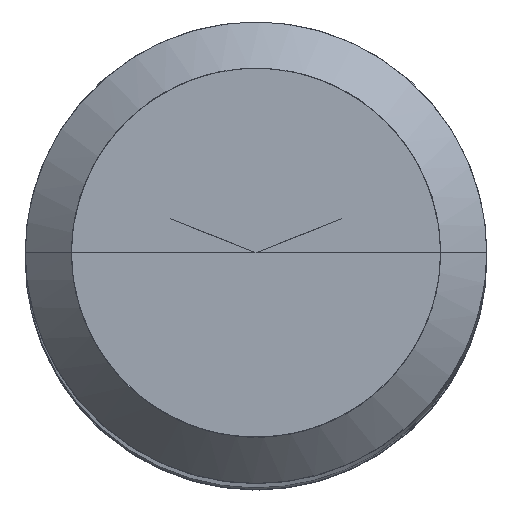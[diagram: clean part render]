
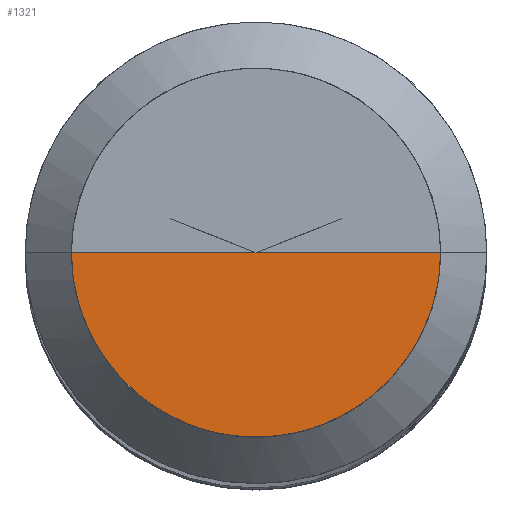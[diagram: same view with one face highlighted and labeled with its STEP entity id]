
A CAD part, top view. The second image highlights one B-rep face of the part: STEP entity #1321.
In plain terms, the highlighted free-form (B-spline) face has degree [1, 2] with [2, 5] control points.
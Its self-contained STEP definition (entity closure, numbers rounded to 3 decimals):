
#805=CARTESIAN_POINT('',(4.8,0.0,58.5));
#809=CARTESIAN_POINT('',(-4.8,0.0,58.5));
#810=CARTESIAN_POINT('',(0.0,0.0,58.5));
#820=CARTESIAN_POINT('',(-4.8,-4.8,58.5));
#821=CARTESIAN_POINT('',(0.0,-4.8,58.5));
#822=CARTESIAN_POINT('',(4.8,-4.8,58.5));
#1306=(
BOUNDED_SURFACE()
B_SPLINE_SURFACE(1,2,(
(#809,#820,#821,#822,#805),
(#810,#810,#810,#810,#810)
), .UNSPECIFIED.,.F.,.F.,.F.)
B_SPLINE_SURFACE_WITH_KNOTS((2,2),(3,2,3),(
0.0,1.0),(
0.0,0.5,1.0), .UNSPECIFIED.)
GEOMETRIC_REPRESENTATION_ITEM()
RATIONAL_B_SPLINE_SURFACE(((1.0,0.707,1.0,0.707,1.0),
(1.0,0.707,1.0,0.707,1.0)
))
REPRESENTATION_ITEM('')
SURFACE()
);
#1307=(
BOUNDED_CURVE()
B_SPLINE_CURVE(2,(#805,#822,#821,#820,#809),.UNSPECIFIED.,.F.,.F.)
B_SPLINE_CURVE_WITH_KNOTS((3,2,3),
(0.0,0.5,1.0),.UNSPECIFIED.)
CURVE()
GEOMETRIC_REPRESENTATION_ITEM()
RATIONAL_B_SPLINE_CURVE((1.0,0.707,1.0,0.707,1.0))
REPRESENTATION_ITEM('')
);
#1308=(
BOUNDED_CURVE()
B_SPLINE_CURVE(1,(#809,#810),.UNSPECIFIED.,.F.,.F.)
B_SPLINE_CURVE_WITH_KNOTS((2,2),
(0.0,1.0),.UNSPECIFIED.)
CURVE()
GEOMETRIC_REPRESENTATION_ITEM()
RATIONAL_B_SPLINE_CURVE((1.0,1.0))
REPRESENTATION_ITEM('')
);
#1309=(
BOUNDED_CURVE()
B_SPLINE_CURVE(1,(#810,#805),.UNSPECIFIED.,.F.,.F.)
B_SPLINE_CURVE_WITH_KNOTS((2,2),
(0.0,1.0),.UNSPECIFIED.)
CURVE()
GEOMETRIC_REPRESENTATION_ITEM()
RATIONAL_B_SPLINE_CURVE((1.0,1.0))
REPRESENTATION_ITEM('')
);
#1310=VERTEX_POINT('',#805);
#1311=VERTEX_POINT('',#809);
#1312=VERTEX_POINT('',#810);
#1313=EDGE_CURVE('',#1310,#1311,#1307,.T.);
#1314=EDGE_CURVE('',#1311,#1312,#1308,.T.);
#1315=EDGE_CURVE('',#1312,#1310,#1309,.T.);
#1316=ORIENTED_EDGE('',*,*,#1313,.T.);
#1317=ORIENTED_EDGE('',*,*,#1314,.T.);
#1318=ORIENTED_EDGE('',*,*,#1315,.T.);
#1319=EDGE_LOOP('',(#1316,#1317,#1318));
#1320=FACE_OUTER_BOUND('',#1319,.T.);
#1321=ADVANCED_FACE('',(#1320),#1306,.T.);
